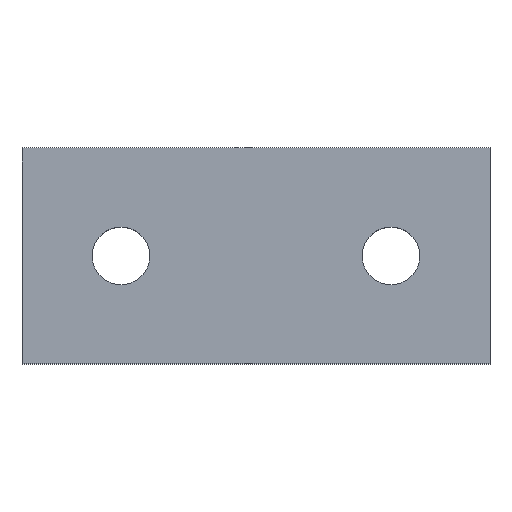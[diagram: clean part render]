
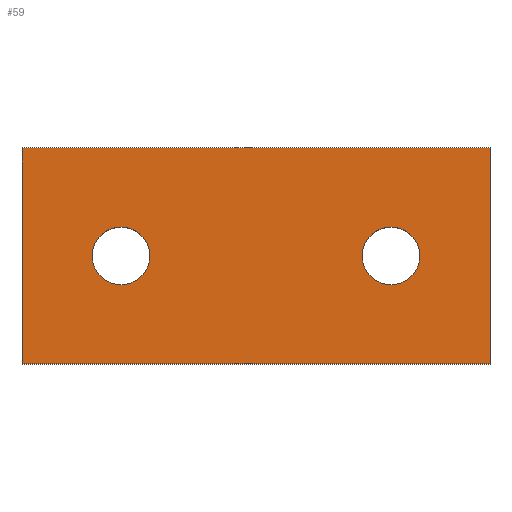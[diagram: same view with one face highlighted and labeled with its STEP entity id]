
A CAD part, top view. The second image highlights one B-rep face of the part: STEP entity #59.
In plain terms, the highlighted planar face has unit normal (0, 0, 1).
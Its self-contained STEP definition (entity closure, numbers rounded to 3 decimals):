
#59=ADVANCED_FACE('',(#79,#80,#81),#82,.T.);
#79=FACE_BOUND('',#104,.T.);
#80=FACE_BOUND('',#105,.T.);
#81=FACE_OUTER_BOUND('',#106,.T.);
#82=PLANE('',#107);
#104=EDGE_LOOP('',(#169,#170));
#105=EDGE_LOOP('',(#171,#172));
#106=EDGE_LOOP('',(#173,#174,#175,#176));
#107=AXIS2_PLACEMENT_3D('',#177,#178,#179);
#169=ORIENTED_EDGE('',*,*,#199,.T.);
#170=ORIENTED_EDGE('',*,*,#200,.T.);
#171=ORIENTED_EDGE('',*,*,#195,.T.);
#172=ORIENTED_EDGE('',*,*,#202,.T.);
#173=ORIENTED_EDGE('',*,*,#204,.F.);
#174=ORIENTED_EDGE('',*,*,#214,.F.);
#175=ORIENTED_EDGE('',*,*,#211,.F.);
#176=ORIENTED_EDGE('',*,*,#208,.F.);
#177=CARTESIAN_POINT('',(49.132,88.052,4.));
#178=DIRECTION('',(0.0,0.0,1.0));
#179=DIRECTION('',(1.0,0.0,0.0));
#195=EDGE_CURVE('',#217,#221,#223,.T.);
#199=EDGE_CURVE('',#225,#229,#231,.T.);
#200=EDGE_CURVE('',#229,#225,#232,.T.);
#202=EDGE_CURVE('',#221,#217,#234,.T.);
#204=EDGE_CURVE('',#236,#237,#238,.T.);
#208=EDGE_CURVE('',#237,#244,#245,.T.);
#211=EDGE_CURVE('',#244,#249,#250,.T.);
#214=EDGE_CURVE('',#249,#236,#254,.T.);
#217=VERTEX_POINT('',#257);
#221=VERTEX_POINT('',#262);
#223=CIRCLE('',#265,0.8);
#225=VERTEX_POINT('',#267);
#229=VERTEX_POINT('',#272);
#231=CIRCLE('',#275,0.8);
#232=CIRCLE('',#276,0.8);
#234=CIRCLE('',#278,0.8);
#236=VERTEX_POINT('',#280);
#237=VERTEX_POINT('',#281);
#238=LINE('',#282,#283);
#244=VERTEX_POINT('',#292);
#245=LINE('',#293,#294);
#249=VERTEX_POINT('',#300);
#250=LINE('',#301,#302);
#254=LINE('',#308,#309);
#257=CARTESIAN_POINT('',(42.492,88.,4.));
#262=CARTESIAN_POINT('',(40.892,88.,4.));
#265=AXIS2_PLACEMENT_3D('',#317,#318,#319);
#267=CARTESIAN_POINT('',(49.992,88.,4.));
#272=CARTESIAN_POINT('',(48.392,88.,4.));
#275=AXIS2_PLACEMENT_3D('',#325,#326,#327);
#276=AXIS2_PLACEMENT_3D('',#328,#329,#330);
#278=AXIS2_PLACEMENT_3D('',#334,#335,#336);
#280=CARTESIAN_POINT('',(51.942,85.,4.));
#281=CARTESIAN_POINT('',(38.942,85.,4.));
#282=CARTESIAN_POINT('',(51.942,85.,4.));
#283=VECTOR('',#340,1.0);
#292=CARTESIAN_POINT('',(38.942,91.,4.));
#293=CARTESIAN_POINT('',(38.942,85.,4.));
#294=VECTOR('',#344,1.0);
#300=CARTESIAN_POINT('',(51.942,91.,4.));
#301=CARTESIAN_POINT('',(38.942,91.,4.));
#302=VECTOR('',#347,1.0);
#308=CARTESIAN_POINT('',(51.942,91.,4.));
#309=VECTOR('',#350,1.0);
#317=CARTESIAN_POINT('',(41.692,88.,4.));
#318=DIRECTION('',(0.0,0.0,-1.0));
#319=DIRECTION('',(1.0,0.0,0.0));
#325=CARTESIAN_POINT('',(49.192,88.,4.));
#326=DIRECTION('',(0.0,0.0,-1.0));
#327=DIRECTION('',(1.0,0.0,0.0));
#328=CARTESIAN_POINT('',(49.192,88.,4.));
#329=DIRECTION('',(0.0,0.0,-1.0));
#330=DIRECTION('',(1.0,0.0,0.0));
#334=CARTESIAN_POINT('',(41.692,88.,4.));
#335=DIRECTION('',(0.0,0.0,-1.0));
#336=DIRECTION('',(1.0,0.0,0.0));
#340=DIRECTION('',(-1.0,0.,0.0));
#344=DIRECTION('',(0.,1.0,0.0));
#347=DIRECTION('',(1.0,0.,0.0));
#350=DIRECTION('',(0.0,-1.0,0.0));
